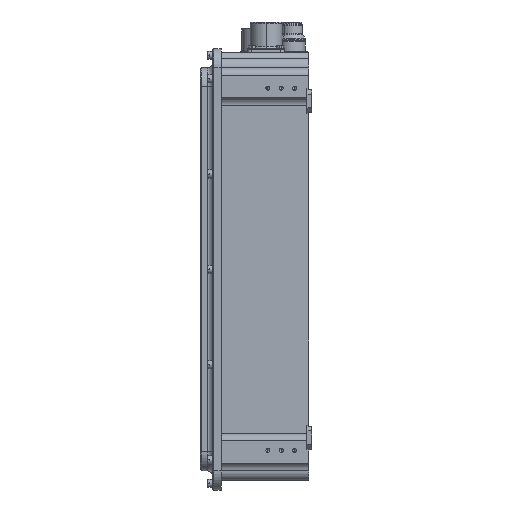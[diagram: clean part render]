
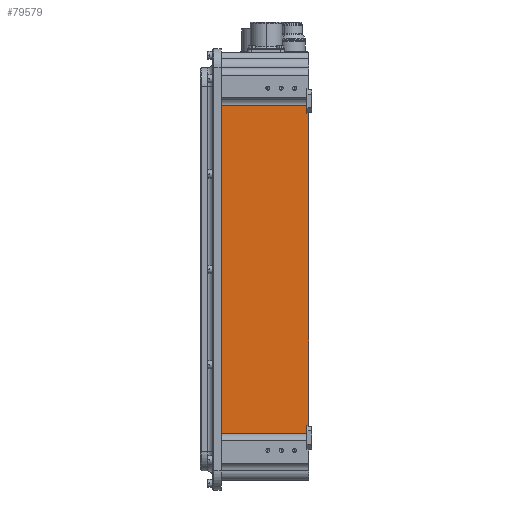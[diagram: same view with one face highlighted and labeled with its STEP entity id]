
A CAD part, left-side view. The second image highlights one B-rep face of the part: STEP entity #79579.
In plain terms, the highlighted planar face has unit normal (-1, 0, 0).
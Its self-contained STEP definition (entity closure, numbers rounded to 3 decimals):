
#2921 = CARTESIAN_POINT ( 'NONE',  ( -258.5, 1.65, 221.5 ) ) ;
#3504 = ORIENTED_EDGE ( 'NONE', *, *, #144747, .F. ) ;
#6110 = LINE ( 'NONE', #77124, #120325 ) ;
#7517 = VERTEX_POINT ( 'NONE', #15201 ) ;
#8610 = LINE ( 'NONE', #94734, #65444 ) ;
#15201 = CARTESIAN_POINT ( 'NONE',  ( -258.5, 1.65, 163.5 ) ) ;
#15867 = VERTEX_POINT ( 'NONE', #49446 ) ;
#16797 = DIRECTION ( 'NONE',  ( 0., 0., -1. ) ) ;
#17593 = EDGE_CURVE ( 'NONE', #7517, #133720, #6110, .T. ) ;
#17968 = VECTOR ( 'NONE', #58808, 1000. ) ;
#18240 = ORIENTED_EDGE ( 'NONE', *, *, #50345, .F. ) ;
#22112 = VERTEX_POINT ( 'NONE', #142534 ) ;
#22625 = EDGE_CURVE ( 'NONE', #22112, #104618, #93656, .T. ) ;
#22652 = DIRECTION ( 'NONE',  ( 0., -1., 0. ) ) ;
#23321 = LINE ( 'NONE', #82755, #17968 ) ;
#29163 = LINE ( 'NONE', #107863, #79095 ) ;
#38810 = LINE ( 'NONE', #132105, #87088 ) ;
#40481 = CARTESIAN_POINT ( 'NONE',  ( -258.5, -0.35, -163.5 ) ) ;
#43525 = VECTOR ( 'NONE', #22652, 1000. ) ;
#45105 = VERTEX_POINT ( 'NONE', #40481 ) ;
#49446 = CARTESIAN_POINT ( 'NONE',  ( -258.5, 1.65, -163.5 ) ) ;
#50345 = EDGE_CURVE ( 'NONE', #7517, #85688, #29163, .T. ) ;
#52547 = EDGE_CURVE ( 'NONE', #133720, #82923, #38810, .T. ) ;
#54083 = CARTESIAN_POINT ( 'NONE',  ( -258.5, -0.35, 163.5 ) ) ;
#58808 = DIRECTION ( 'NONE',  ( 0., 0., -1. ) ) ;
#65444 = VECTOR ( 'NONE', #148978, 1000. ) ;
#66107 = AXIS2_PLACEMENT_3D ( 'NONE', #103448, #136599, #137377 ) ;
#66451 = ORIENTED_EDGE ( 'NONE', *, *, #17593, .T. ) ;
#70497 = CARTESIAN_POINT ( 'NONE',  ( -258.5, -0.35, -172.254 ) ) ;
#73413 = CARTESIAN_POINT ( 'NONE',  ( -258.5, 1.65, 172.254 ) ) ;
#76860 = VECTOR ( 'NONE', #16797, 1000. ) ;
#77124 = CARTESIAN_POINT ( 'NONE',  ( -258.5, 1.65, 221.5 ) ) ;
#78560 = VECTOR ( 'NONE', #130247, 1000. ) ;
#79095 = VECTOR ( 'NONE', #134762, 1000. ) ;
#79443 = EDGE_LOOP ( 'NONE', ( #100161, #108640, #18240, #66451, #93012, #3504, #124522, #100113 ) ) ;
#79579 = ADVANCED_FACE ( 'NONE', ( #138099 ), #92650, .T. ) ;
#82755 = CARTESIAN_POINT ( 'NONE',  ( -258.5, -0.35, 221.5 ) ) ;
#82923 = VERTEX_POINT ( 'NONE', #147930 ) ;
#85688 = VERTEX_POINT ( 'NONE', #54083 ) ;
#87088 = VECTOR ( 'NONE', #98933, 1000. ) ;
#92650 = PLANE ( 'NONE',  #66107 ) ;
#93012 = ORIENTED_EDGE ( 'NONE', *, *, #52547, .T. ) ;
#93656 = LINE ( 'NONE', #70497, #43525 ) ;
#94734 = CARTESIAN_POINT ( 'NONE',  ( -258.5, 91.65, -211.5 ) ) ;
#95994 = EDGE_CURVE ( 'NONE', #15867, #104618, #110839, .T. ) ;
#98933 = DIRECTION ( 'NONE',  ( 0., 1., 0. ) ) ;
#100113 = ORIENTED_EDGE ( 'NONE', *, *, #95994, .F. ) ;
#100161 = ORIENTED_EDGE ( 'NONE', *, *, #148150, .F. ) ;
#103448 = CARTESIAN_POINT ( 'NONE',  ( -258.5, 97.65, 221.5 ) ) ;
#104618 = VERTEX_POINT ( 'NONE', #116582 ) ;
#107863 = CARTESIAN_POINT ( 'NONE',  ( -258.5, 97.65, 163.5 ) ) ;
#108640 = ORIENTED_EDGE ( 'NONE', *, *, #122537, .F. ) ;
#110839 = LINE ( 'NONE', #2921, #76860 ) ;
#116582 = CARTESIAN_POINT ( 'NONE',  ( -258.5, 1.65, -172.254 ) ) ;
#120325 = VECTOR ( 'NONE', #146497, 1000. ) ;
#122537 = EDGE_CURVE ( 'NONE', #85688, #45105, #23321, .T. ) ;
#124522 = ORIENTED_EDGE ( 'NONE', *, *, #22625, .T. ) ;
#130247 = DIRECTION ( 'NONE',  ( 0., 1., 0. ) ) ;
#132105 = CARTESIAN_POINT ( 'NONE',  ( -258.5, 91.65, 172.254 ) ) ;
#132494 = CARTESIAN_POINT ( 'NONE',  ( -258.5, 97.65, -163.5 ) ) ;
#133720 = VERTEX_POINT ( 'NONE', #73413 ) ;
#134762 = DIRECTION ( 'NONE',  ( 0., -1., 0. ) ) ;
#136599 = DIRECTION ( 'NONE',  ( -1., 0., 0. ) ) ;
#137377 = DIRECTION ( 'NONE',  ( 0., 0., 1. ) ) ;
#138099 = FACE_OUTER_BOUND ( 'NONE', #79443, .T. ) ;
#141781 = LINE ( 'NONE', #132494, #78560 ) ;
#142534 = CARTESIAN_POINT ( 'NONE',  ( -258.5, 91.65, -172.254 ) ) ;
#144747 = EDGE_CURVE ( 'NONE', #22112, #82923, #8610, .T. ) ;
#146497 = DIRECTION ( 'NONE',  ( 0., 0., 1. ) ) ;
#147930 = CARTESIAN_POINT ( 'NONE',  ( -258.5, 91.65, 172.254 ) ) ;
#148150 = EDGE_CURVE ( 'NONE', #45105, #15867, #141781, .T. ) ;
#148978 = DIRECTION ( 'NONE',  ( 0., 0., 1. ) ) ;
